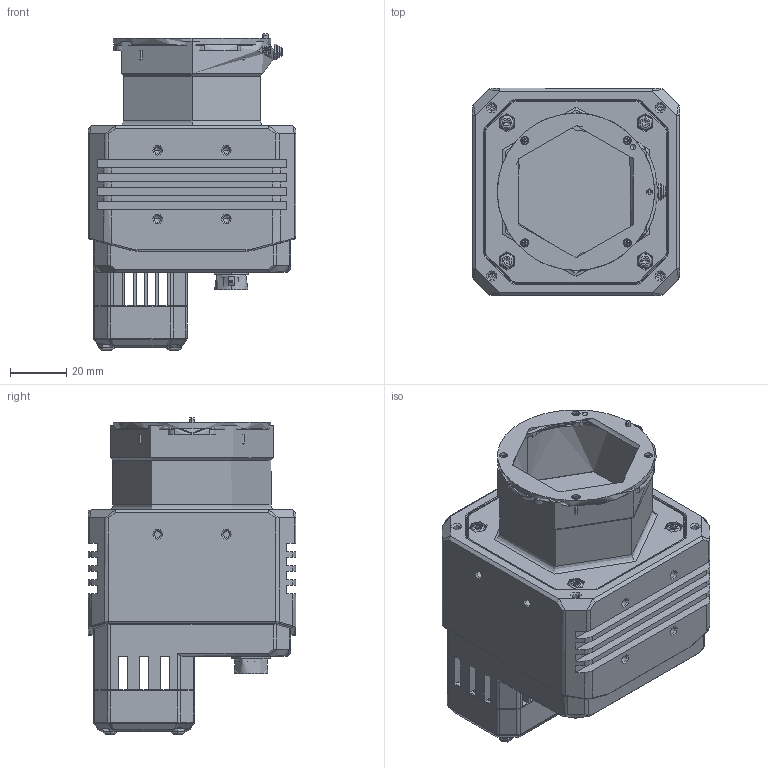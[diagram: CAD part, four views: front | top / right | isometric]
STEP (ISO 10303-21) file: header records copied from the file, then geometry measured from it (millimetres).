
FILE_DESCRIPTION((''),'2;1');
FILE_NAME('31MP','2019-08-17T15:24:34',('wangyijun6'),(''),'CREO PARAMETRIC BY PTC INC, 2017260','CREO PARAMETRIC BY PTC INC, 2017260','');
FILE_SCHEMA(('CONFIG_CONTROL_DESIGN'));
Products named in the file (1): 31MP
Bounding box: 74 x 74 x 112.83 mm (x, y, z)
Topology: 3 solids, 41 shells, 3117 faces, 8457 edges, 5437 vertices
Faces by surface type: plane 1461, cylinder 928, bspline 231, cone 222, extrusion 158, torus 109, revolution 4, sphere 4
Entity records: 124495 total; most frequent: CARTESIAN_POINT 46957, ORIENTED_EDGE 16759, DIRECTION 15349, EDGE_CURVE 8384, VERTEX_POINT 5429, AXIS2_PLACEMENT_3D 5272, VECTOR 4801, LINE 4643
